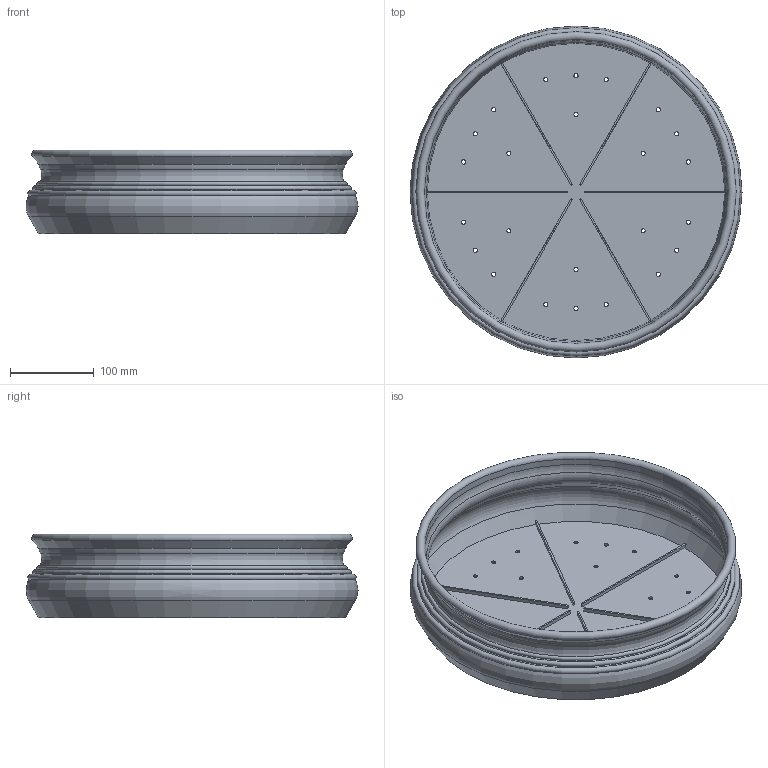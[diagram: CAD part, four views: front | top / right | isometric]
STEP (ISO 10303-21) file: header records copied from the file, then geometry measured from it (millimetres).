
FILE_DESCRIPTION(/* description */ (''),/* implementation_level */ '2;1');
FILE_NAME(/* name */ 'LR2406-S20-H100-D400_step.step',/* time_stamp */ '2024-02-01T11:02:03+01:00',/* author */ (''),/* organization */ (''),/* preprocessor_version */ 'ST-DEVELOPER v20',/* originating_system */ 'Autodesk Translation Framework v12.20.1.177',/* authorisation */ '');
FILE_SCHEMA (('AUTOMOTIVE_DESIGN { 1 0 10303 214 3 1 1 }'));
Length unit declared in the file: millimetre
Products named in the file (1): LR2406-S20-H100-D400
Bounding box: 396 x 396 x 100 mm (x, y, z)
Volume: 628572.5 mm3; surface area: 492705.4 mm2
Topology: 1 solids, 1 shells, 67 faces, 179 edges, 114 vertices
Faces by surface type: cylinder 31, plane 20, torus 10, cone 6
Full cylindrical faces by diameter (mm): 5 x24, 362 x1
Entity records: 2261 total; most frequent: DIRECTION 415, CARTESIAN_POINT 361, ORIENTED_EDGE 358, EDGE_CURVE 179, AXIS2_PLACEMENT_3D 168, EDGE_LOOP 115, VERTEX_POINT 114, CIRCLE 100
